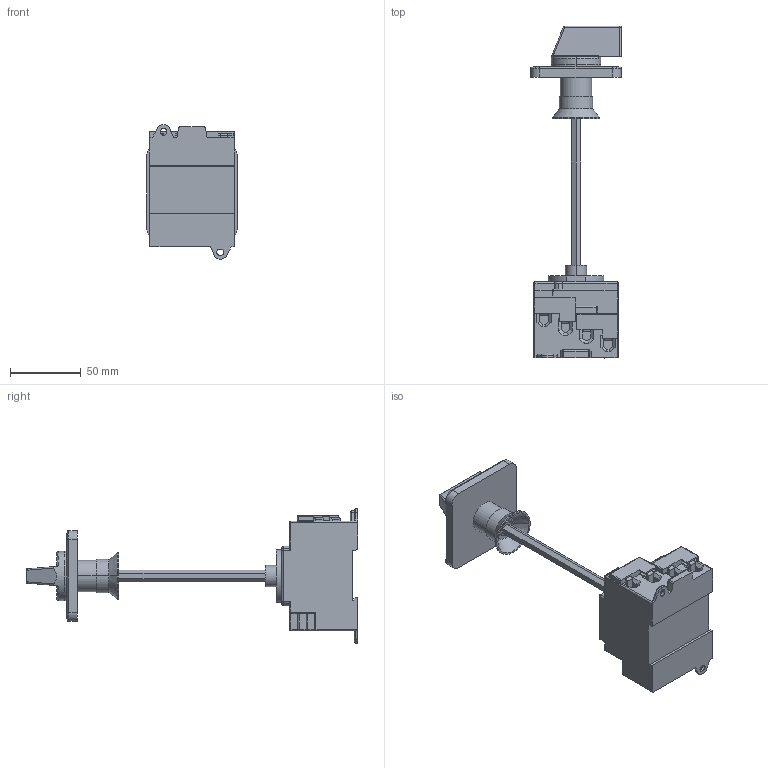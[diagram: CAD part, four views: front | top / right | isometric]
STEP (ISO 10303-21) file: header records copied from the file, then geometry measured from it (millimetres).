
FILE_DESCRIPTION (( 'STEP AP203' ), '1' );
FILE_NAME ('LS32 VZV A4U.STEP', '2014-03-18T10:11:30', ( 'edv' ), ( '' ), 'SwSTEP 2.0', 'SolidWorks 2014', '' );
FILE_SCHEMA (( 'CONFIG_CONTROL_DESIGN' ));
Length unit declared in the file: millimetre
Products named in the file (4): Dummie Griff TKZ G2 64; Dummie Schalterkörper VZV Standard; LSV-B1; LS32 VZV A4U
Assembly tree (4 placements, depth 2):
  LS32 VZV A4U
    Dummie Griff TKZ G2 64
    Dummie Schalterkörper VZV Standard
    LSV-B1  x2
Bounding box: 64 x 234.2 x 94.99 mm (x, y, z)
Volume: 277612.5 mm3; surface area: 54010.4 mm2
Topology: 4 solids, 5 shells, 503 faces, 1261 edges, 746 vertices
Faces by surface type: plane 276, cylinder 147, torus 33, sphere 32, cone 11, bspline 4
Entity records: 13976 total; most frequent: CARTESIAN_POINT 2685, DIRECTION 2323, ORIENTED_EDGE 2234, EDGE_CURVE 1117, AXIS2_PLACEMENT_3D 800, VECTOR 723, LINE 723, VERTEX_POINT 676
